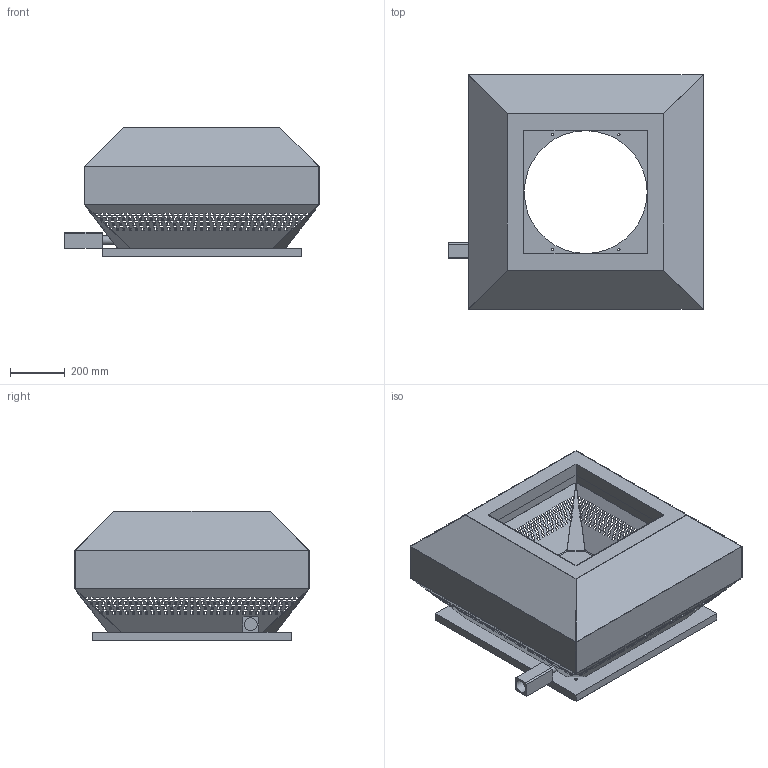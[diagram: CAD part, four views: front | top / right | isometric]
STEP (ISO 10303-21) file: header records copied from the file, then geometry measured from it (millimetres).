
FILE_DESCRIPTION(/* description */ (''),/* implementation_level */ '2;1');
FILE_NAME(/* name */ 'Z:\Output\RDD_450-4_EX-07390-001.stp',/* time_stamp */ '2020-06-25T16:57:08+02:00',/* author */ ('engineering1'),/* organization */ (''),/* preprocessor_version */ 'ST-DEVELOPER v17.2',/* originating_system */ 'Autodesk Inventor 2019',/* authorisation */ '');
FILE_SCHEMA (('AUTOMOTIVE_DESIGN { 1 0 10303 214 3 1 1 }'));
Products named in the file (1): RD-2
Bounding box: 931 x 860 x 473 mm (x, y, z)
Volume: 5445071.7 mm3; surface area: 4596026.6 mm2
Topology: 1 solids, 1 shells, 3999 faces, 12146 edges, 8052 vertices
Faces by surface type: plane 3985, cylinder 14
Full cylindrical faces by diameter (mm): 8 x6, 12 x4, 31.533 x2, 47.3 x1, 450 x1
Entity records: 138791 total; most frequent: ORIENTED_EDGE 24292, CARTESIAN_POINT 24198, DIRECTION 20174, EDGE_CURVE 12146, LINE 12118, VECTOR 12118, VERTEX_POINT 8052, EDGE_LOOP 5854
